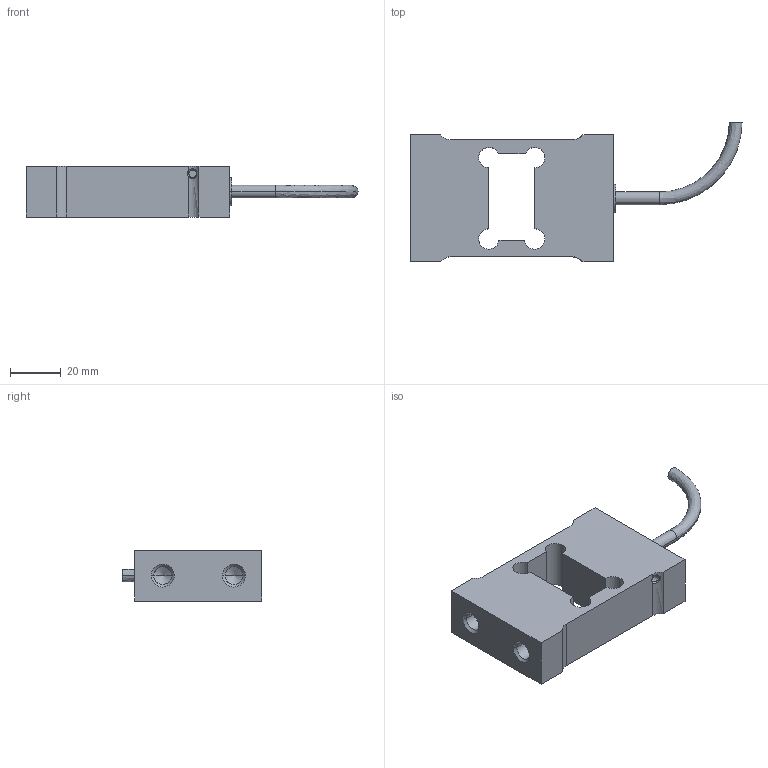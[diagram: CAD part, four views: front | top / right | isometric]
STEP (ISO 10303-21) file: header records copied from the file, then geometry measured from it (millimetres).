
FILE_DESCRIPTION((''),'2;1');
FILE_NAME('SP8_A_5KG_100KG','2022-08-22T',('TMarzahn'),(''),'CREO PARAMETRIC BY PTC INC, 2018220','CREO PARAMETRIC BY PTC INC, 2018220','');
FILE_SCHEMA(('CONFIG_CONTROL_DESIGN'));
Length unit declared in the file: millimetre
Products named in the file (1): SP8_A_5KG_100KG
Bounding box: 130.5 x 55 x 20.3 mm (x, y, z)
Volume: 58610.5 mm3; surface area: 18401.9 mm2
Topology: 2 solids, 2 shells, 422 faces, 1123 edges, 731 vertices
Faces by surface type: bspline 422
Entity records: 18544 total; most frequent: CARTESIAN_POINT 6697, ORIENTED_EDGE 2226, DIRECTION 1218, EDGE_CURVE 1113, VECTOR 944, LINE 944, VERTEX_POINT 731, EDGE_LOOP 460
